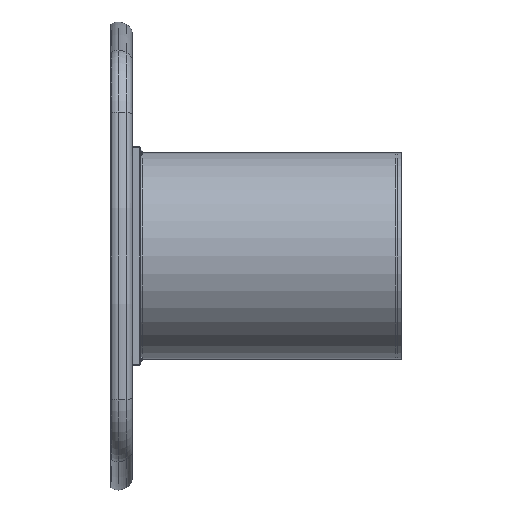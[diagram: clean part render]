
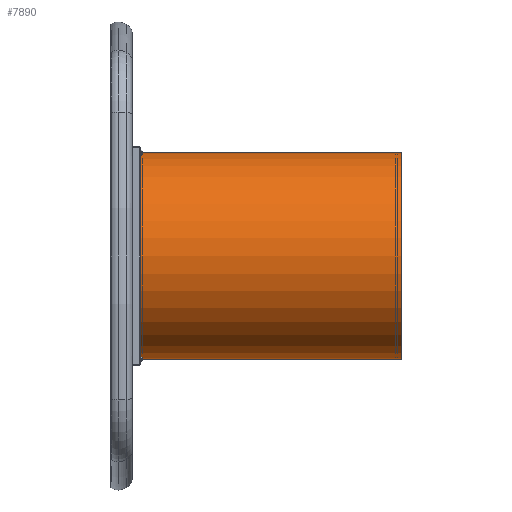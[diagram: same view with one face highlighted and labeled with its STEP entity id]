
A CAD part, left-side view. The second image highlights one B-rep face of the part: STEP entity #7890.
In plain terms, the highlighted cylindrical face has radius 265 mm (diameter 530 mm), a partial arc.
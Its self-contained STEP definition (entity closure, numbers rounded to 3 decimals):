
#22 = EDGE_CURVE ( 'NONE', #15678, #13444, #483, .T. ) ;
#483 = LINE ( 'NONE', #5954, #5527 ) ;
#1870 = EDGE_CURVE ( 'NONE', #15678, #12752, #10730, .T. ) ;
#2088 = VERTEX_POINT ( 'NONE', #10879 ) ;
#2221 = DIRECTION ( 'NONE',  ( 0., 1., 0. ) ) ;
#2494 = EDGE_CURVE ( 'NONE', #12752, #2088, #9775, .T. ) ;
#2630 = CYLINDRICAL_SURFACE ( 'NONE', #3514, 265. ) ;
#3143 = CARTESIAN_POINT ( 'NONE',  ( 0., 0., -265. ) ) ;
#3327 = CARTESIAN_POINT ( 'NONE',  ( 0., 670., 265. ) ) ;
#3477 = DIRECTION ( 'NONE',  ( 0., 0., 1. ) ) ;
#3514 = AXIS2_PLACEMENT_3D ( 'NONE', #7832, #8094, #13519 ) ;
#3833 = DIRECTION ( 'NONE',  ( 0., 0., 1. ) ) ;
#5141 = CARTESIAN_POINT ( 'NONE',  ( 0., 670., -265. ) ) ;
#5527 = VECTOR ( 'NONE', #16847, 1000. ) ;
#5857 = EDGE_CURVE ( 'NONE', #13444, #2088, #5902, .T. ) ;
#5902 = CIRCLE ( 'NONE', #14178, 265. ) ;
#5954 = CARTESIAN_POINT ( 'NONE',  ( 0., 670., -265. ) ) ;
#7608 = DIRECTION ( 'NONE',  ( 0., 1., 0. ) ) ;
#7832 = CARTESIAN_POINT ( 'NONE',  ( 0., 670., 0. ) ) ;
#7890 = ADVANCED_FACE ( 'NONE', ( #10780 ), #2630, .T. ) ;
#8094 = DIRECTION ( 'NONE',  ( 0., -1., 0. ) ) ;
#9207 = CARTESIAN_POINT ( 'NONE',  ( 0., 670., 0. ) ) ;
#9772 = ORIENTED_EDGE ( 'NONE', *, *, #22, .T. ) ;
#9775 = LINE ( 'NONE', #3327, #10943 ) ;
#10730 = CIRCLE ( 'NONE', #11011, 265. ) ;
#10780 = FACE_OUTER_BOUND ( 'NONE', #16610, .T. ) ;
#10879 = CARTESIAN_POINT ( 'NONE',  ( 0., 0., 265. ) ) ;
#10943 = VECTOR ( 'NONE', #11383, 1000. ) ;
#11011 = AXIS2_PLACEMENT_3D ( 'NONE', #9207, #2221, #3477 ) ;
#11383 = DIRECTION ( 'NONE',  ( 0., -1., 0. ) ) ;
#11654 = ORIENTED_EDGE ( 'NONE', *, *, #1870, .F. ) ;
#12025 = CARTESIAN_POINT ( 'NONE',  ( 0., 670., 265. ) ) ;
#12752 = VERTEX_POINT ( 'NONE', #12025 ) ;
#13444 = VERTEX_POINT ( 'NONE', #3143 ) ;
#13505 = ORIENTED_EDGE ( 'NONE', *, *, #5857, .T. ) ;
#13519 = DIRECTION ( 'NONE',  ( 0., 0., -1. ) ) ;
#13715 = ORIENTED_EDGE ( 'NONE', *, *, #2494, .F. ) ;
#14178 = AXIS2_PLACEMENT_3D ( 'NONE', #15901, #7608, #3833 ) ;
#15678 = VERTEX_POINT ( 'NONE', #5141 ) ;
#15901 = CARTESIAN_POINT ( 'NONE',  ( 0., 0., 0. ) ) ;
#16610 = EDGE_LOOP ( 'NONE', ( #13715, #11654, #9772, #13505 ) ) ;
#16847 = DIRECTION ( 'NONE',  ( 0., -1., 0. ) ) ;
